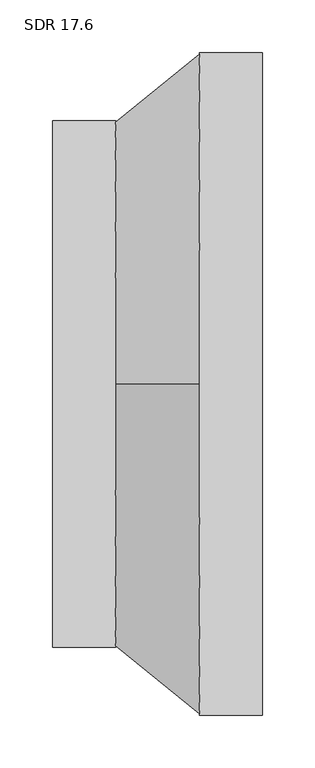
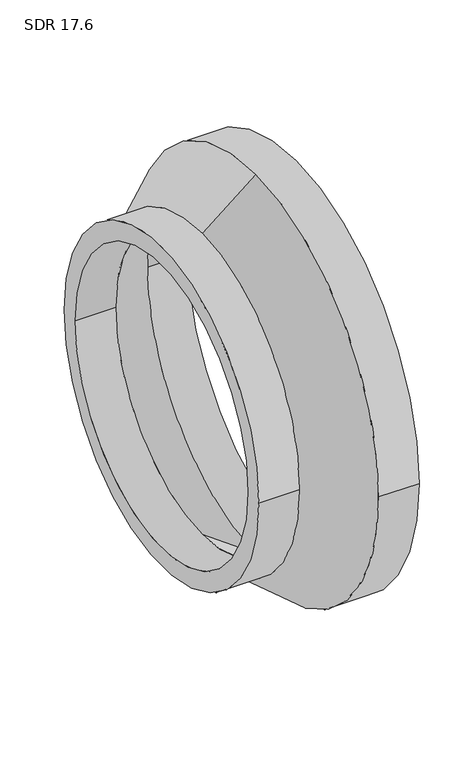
"""IFC4 building model written with IfcOpenShell, lengths in millimetres: pipe fitting geometry, Aquatherm - Reducing Coupling Combined - METRIC : SDR 17.6."""

from ifc_helpers import new_model, si_unit, frame, origin, place, context, project, spatial, polyline, circle_curve, source, transform, mapped, element, save
from ifc_brep_helpers import plane_surface, cylinder_surface, revolved_surface, advanced_brep


def sdr_17_6_10fd7980(model_context):
    return source(origin(), model_context, "Body", "AdvancedBrep", [
        advanced_brep(
        [(-99.949, -250.19, 0.0), (-99.949, 250.19, 0.0), (-99.949, -221.7593182, 0.0), (-99.949, 221.7593182, 0.0), (-39.9796, 221.7593182, 0.0), (-39.9796, 0.0, 221.7593182), (-39.9796, -221.7593182, 0.0), (-39.9796, 0.0, -221.7593182), (-39.9796, 250.19, 0.0), (-39.9796, 0.0, -250.19), (-39.9796, -250.19, 0.0), (-39.9796, 0.0, 250.19), (99.949, -314.96, 0.0), (99.949, 314.96, 0.0), (99.949, -279.1690909, 0.0), (99.949, 279.1690909, 0.0), (39.9796, -314.96, 0.0), (39.9796, 0.0, -314.96), (39.9796, 314.96, 0.0), (39.9796, 0.0, 314.96), (39.9796, -279.1690909, 0.0), (39.9796, 0.0, 279.1690909), (39.9796, 279.1690909, 0.0), (39.9796, 0.0, -279.1690909)],
        [
            (0, 1, circle_curve(frame((-99.949, 0.0, 0.0), z_axis=(-1.0, 0.0, 0.0), x_axis=(0.0, 1.0, 0.0)), 250.19)),
            (1, 0, circle_curve(frame((-99.949, 0.0, 0.0), z_axis=(-1.0, 0.0, 0.0), x_axis=(0.0, 1.0, 0.0)), 250.19)),
            (2, 3, circle_curve(frame((-99.949, 0.0, 0.0), z_axis=(1.0, 0.0, 0.0), x_axis=(0.0, 1.0, 0.0)), 221.7593182)),
            (3, 2, circle_curve(frame((-99.949, 0.0, 0.0), z_axis=(1.0, 0.0, 0.0), x_axis=(0.0, 1.0, 0.0)), 221.7593182)),
            (3, 4),
            (4, 5, circle_curve(frame((-39.9796, 0.0, 0.0), z_axis=(1.0, 0.0, 0.0), x_axis=(0.0, 1.0, 0.0)), 221.7593182)),
            (5, 6, circle_curve(frame((-39.9796, 0.0, 0.0), z_axis=(1.0, 0.0, 0.0), x_axis=(0.0, 1.0, 0.0)), 221.7593182)),
            (6, 2),
            (6, 7, circle_curve(frame((-39.9796, 0.0, 0.0), z_axis=(1.0, 0.0, 0.0), x_axis=(0.0, 1.0, 0.0)), 221.7593182)),
            (7, 4, circle_curve(frame((-39.9796, 0.0, 0.0), z_axis=(1.0, 0.0, 0.0), x_axis=(0.0, 1.0, 0.0)), 221.7593182)),
            (1, 8),
            (8, 9, circle_curve(frame((-39.9796, 0.0, 0.0), z_axis=(-1.0, 0.0, 0.0), x_axis=(0.0, 1.0, 0.0)), 250.19)),
            (9, 10, circle_curve(frame((-39.9796, 0.0, 0.0), z_axis=(-1.0, 0.0, 0.0), x_axis=(0.0, 1.0, 0.0)), 250.19)),
            (10, 0),
            (10, 11, circle_curve(frame((-39.9796, 0.0, 0.0), z_axis=(-1.0, 0.0, 0.0), x_axis=(0.0, 1.0, 0.0)), 250.19)),
            (11, 8, circle_curve(frame((-39.9796, 0.0, 0.0), z_axis=(-1.0, 0.0, 0.0), x_axis=(0.0, 1.0, 0.0)), 250.19)),
            (12, 13, circle_curve(frame((99.949, 0.0, 0.0), z_axis=(1.0, 0.0, 0.0), x_axis=(0.0, 1.0, 0.0)), 314.96)),
            (13, 12, circle_curve(frame((99.949, 0.0, 0.0), z_axis=(1.0, 0.0, 0.0), x_axis=(0.0, 1.0, 0.0)), 314.96)),
            (14, 15, circle_curve(frame((99.949, 0.0, 0.0), z_axis=(-1.0, 0.0, 0.0), x_axis=(0.0, 1.0, 0.0)), 279.1690909)),
            (15, 14, circle_curve(frame((99.949, 0.0, 0.0), z_axis=(-1.0, 0.0, 0.0), x_axis=(0.0, 1.0, 0.0)), 279.1690909)),
            (12, 16),
            (16, 17, circle_curve(frame((39.9796, 0.0, 0.0), z_axis=(1.0, 0.0, 0.0), x_axis=(0.0, 1.0, 0.0)), 314.96)),
            (17, 18, circle_curve(frame((39.9796, 0.0, 0.0), z_axis=(1.0, 0.0, 0.0), x_axis=(0.0, 1.0, 0.0)), 314.96)),
            (18, 13),
            (18, 19, circle_curve(frame((39.9796, 0.0, 0.0), z_axis=(1.0, 0.0, 0.0), x_axis=(0.0, 1.0, 0.0)), 314.96)),
            (19, 16, circle_curve(frame((39.9796, 0.0, 0.0), z_axis=(1.0, 0.0, 0.0), x_axis=(0.0, 1.0, 0.0)), 314.96)),
            (14, 20),
            (20, 21, circle_curve(frame((39.9796, 0.0, 0.0), z_axis=(-1.0, 0.0, 0.0), x_axis=(0.0, 1.0, 0.0)), 279.1690909)),
            (21, 22, circle_curve(frame((39.9796, 0.0, 0.0), z_axis=(-1.0, 0.0, 0.0), x_axis=(0.0, 1.0, 0.0)), 279.1690909)),
            (22, 15),
            (22, 23, circle_curve(frame((39.9796, 0.0, 0.0), z_axis=(-1.0, 0.0, 0.0), x_axis=(0.0, 1.0, 0.0)), 279.1690909)),
            (23, 20, circle_curve(frame((39.9796, 0.0, 0.0), z_axis=(-1.0, 0.0, 0.0), x_axis=(0.0, 1.0, 0.0)), 279.1690909)),
            (11, 19),
            (17, 9),
            (21, 5),
            (7, 23),
        ],
        [
            plane_surface(frame((-99.949, 221.7593182, 0.0), z_axis=(-1.0, 0.0, 0.0), x_axis=(0.0, 0.0, 1.0))),
            revolved_surface(polyline([(-99.949, 221.7593182, 0.0), (-39.9796, 221.7593182, 0.0)]), (-99.949, 0.0, 0.0), (-1.0, 0.0, 0.0)),
            cylinder_surface(frame((0.0, 0.0, 0.0), z_axis=(1.0, 0.0, 0.0), x_axis=(0.0, 1.0, 0.0)), 250.19),
            plane_surface(frame((99.949, 314.96, 0.0), z_axis=(1.0, 0.0, 0.0), x_axis=(0.0, 0.0, 1.0))),
            cylinder_surface(frame((39.9796, 0.0, 0.0), z_axis=(1.0, 0.0, 0.0), x_axis=(0.0, 1.0, 0.0)), 314.96),
            revolved_surface(polyline([(39.9796, 279.1690909, 0.0), (99.949, 279.1690909, 0.0)]), (0.0, 0.0, 0.0), (-1.0, 0.0, 0.0)),
            revolved_surface(polyline([(39.9796, 0.0, 314.96), (-39.9796, 0.0, 250.19)]), (-675.2085384, 0.0, 0.0), (-1.0, 0.0, 0.0)),
            revolved_surface(polyline([(-39.9796, 0.0, 221.7593182), (39.9796, 0.0, 279.1690909)]), (-675.2085384, 0.0, 0.0), (-1.0, 0.0, 0.0)),
        ],
        [
            (0, [[1, 2], [3, 4]]),
            (1, [[-4, 5, 6, 7, 8]]),
            (1, [[-3, -8, 9, 10, -5]]),
            (2, [[-2, 11, 12, 13, 14]]),
            (2, [[-1, -14, 15, 16, -11]]),
            (3, [[17, 18], [19, 20]]),
            (4, [[-17, 21, 22, 23, 24]]),
            (4, [[-18, -24, 25, 26, -21]]),
            (5, [[-19, 27, 28, 29, 30]]),
            (5, [[-20, -30, 31, 32, -27]]),
            (6, [[33, -25, -23, 34, -12, -16]]),
            (6, [[-33, -15, -13, -34, -22, -26]]),
            (7, [[35, -6, -10, 36, -31, -29]]),
            (7, [[-35, -28, -32, -36, -9, -7]]),
        ],
    ),
    ])


if __name__ == "__main__":
    model = new_model("IFC4")
    model_context = context("Model", 3, world=origin())
    ifc_project = project(units=[si_unit("LENGTHUNIT", "METRE", prefix="MILLI")], contexts=[model_context])
    site = spatial("IfcSite", under=ifc_project)
    building = spatial("IfcBuilding", under=site)
    placement = place(None, origin())
    sdr_17_6_shape = sdr_17_6_10fd7980(model_context)
    element("IfcPipeFitting", 1, ObjectType="Aquatherm - Reducing Coupling Combined - METRIC : SDR 17.6", at=placement, inside=building, context=model_context, shape_type="MappedRepresentation", body=[
        mapped(sdr_17_6_shape, transform((0.0, 0.0, 0.0), x_axis=(1.0, 0.0, 0.0), y_axis=(0.0, 1.0, 0.0), z_axis=(0.0, 0.0, 1.0))),
    ])
    save(model, "model.ifc")
